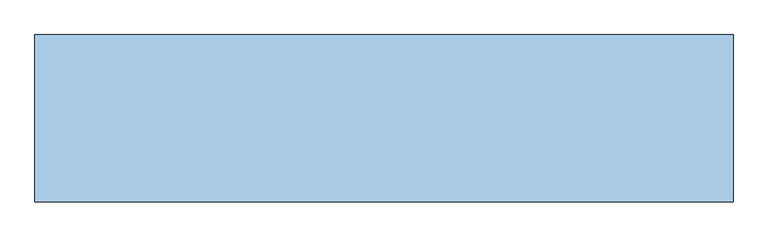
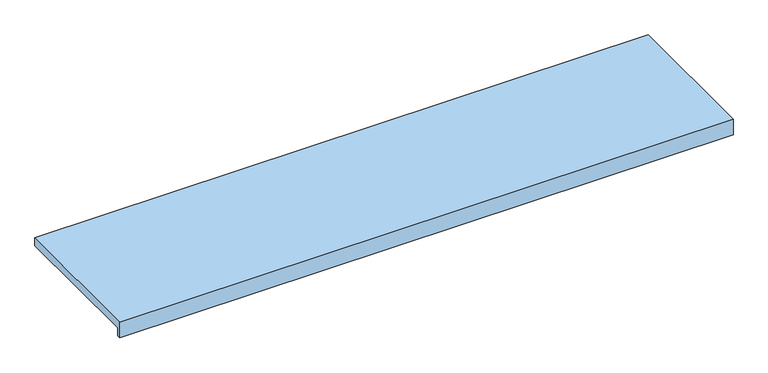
"""IFC4 building model written with IfcOpenShell, lengths in millimetres: window geometry, Окна_Подоконник : ПВХ."""

from ifc_helpers import new_model, si_unit, frame, origin, place, context, project, spatial, polyline, outline, extrude, source, transform, mapped, element, save


def window_832654c1(model_context):
    return source(origin(), model_context, "Body", "SweptSolid", [
        extrude(outline(polyline([(-360.0, 20.0), (0.0, 20.0), (0.0, 0.0), (-350.0, 0.0), (-350.0, -20.0), (-360.0, -20.0), (-360.0, 20.0)])), frame((-750.0, 0.0, 0.0), z_axis=(1.0, 0.0, 0.0), x_axis=(0.0, 1.0, 0.0)), (0.0, 0.0, 1.0), 1500.0),
    ])


if __name__ == "__main__":
    model = new_model("IFC4")
    model_context = context("Model", 3, world=origin())
    ifc_project = project(units=[si_unit("LENGTHUNIT", "METRE", prefix="MILLI")], contexts=[model_context])
    site = spatial("IfcSite", under=ifc_project)
    building = spatial("IfcBuilding", under=site)
    placement = place(None, origin())
    window_shape = window_832654c1(model_context)
    element("IfcWindow", 1, ObjectType="Окна_Подоконник : ПВХ", at=placement, inside=building, context=model_context, shape_type="MappedRepresentation", body=[
        mapped(window_shape, transform((0.0, 0.0, 0.0), x_axis=(1.0, 0.0, 0.0), y_axis=(0.0, 1.0, 0.0), z_axis=(0.0, 0.0, 1.0))),
    ])
    save(model, "model.ifc")
